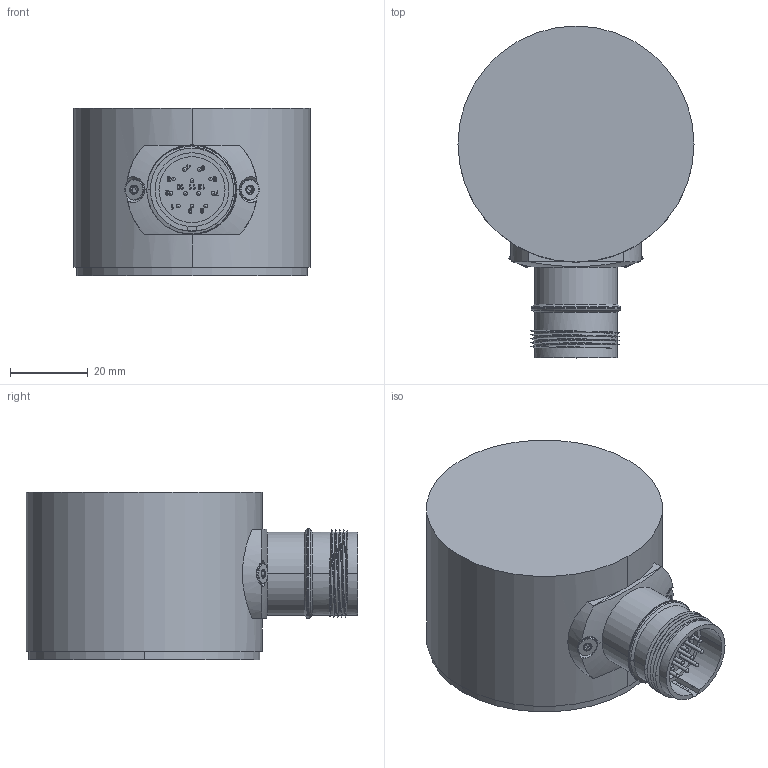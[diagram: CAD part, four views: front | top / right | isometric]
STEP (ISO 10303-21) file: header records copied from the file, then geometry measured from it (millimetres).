
FILE_DESCRIPTION (( 'STEP AP203' ), '1' );
FILE_NAME ('Drawing-OC-6-TC-432-2NM-NNNRLT-Y-PRL-N.STEP', '2013-04-22T13:30:13', ( '' ), ( '' ), 'SwSTEP 2.0', 'SolidWorks 2006104', '' );
FILE_SCHEMA (( 'CONFIG_CONTROL_DESIGN' ));
Length unit declared in the file: millimetre
Products named in the file (1): Drawing-OC-6-TC-432-2NM-NNNRLT-Y-PRL-N
Bounding box: 60.8 x 85.45 x 43.2 mm (x, y, z)
Volume: 36334.9 mm3; surface area: 33591 mm2
Topology: 13 solids, 13 shells, 710 faces, 1811 edges, 1145 vertices
Faces by surface type: cone 180, cylinder 163, plane 157, bspline 117, torus 81, sphere 12
Entity records: 37062 total; most frequent: CARTESIAN_POINT 20664, ORIENTED_EDGE 3530, DIRECTION 3222, EDGE_CURVE 1765, AXIS2_PLACEMENT_3D 1295, VERTEX_POINT 1121, EDGE_LOOP 776, ADVANCED_FACE 710
